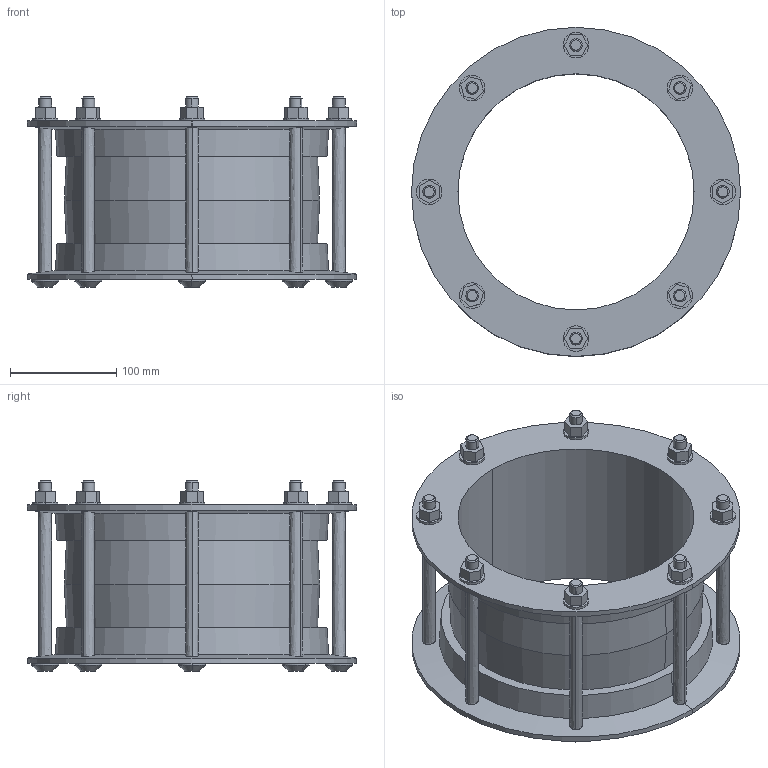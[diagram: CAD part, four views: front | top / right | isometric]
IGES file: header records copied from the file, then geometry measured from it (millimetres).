
Start section:  PTC IGES file: flexlock_coupling_219-1.igs
Global section: file name: flexlock_coupling_219-1.igs; native system: Creo Parametric by PTC Inc.; preprocessor: 2016130; author: MReader; organization: Unknown; date: 20200728.114858; units: millimetre
Bounding box: 309.32 x 309.32 x 178.63 mm (x, y, z)
Surface area: 399539.5 mm2 (no closed solid volume)
Topology: 0 solids, 0 shells, 198 faces, 896 edges, 896 vertices
Faces by surface type: revolution 114, bspline 84
